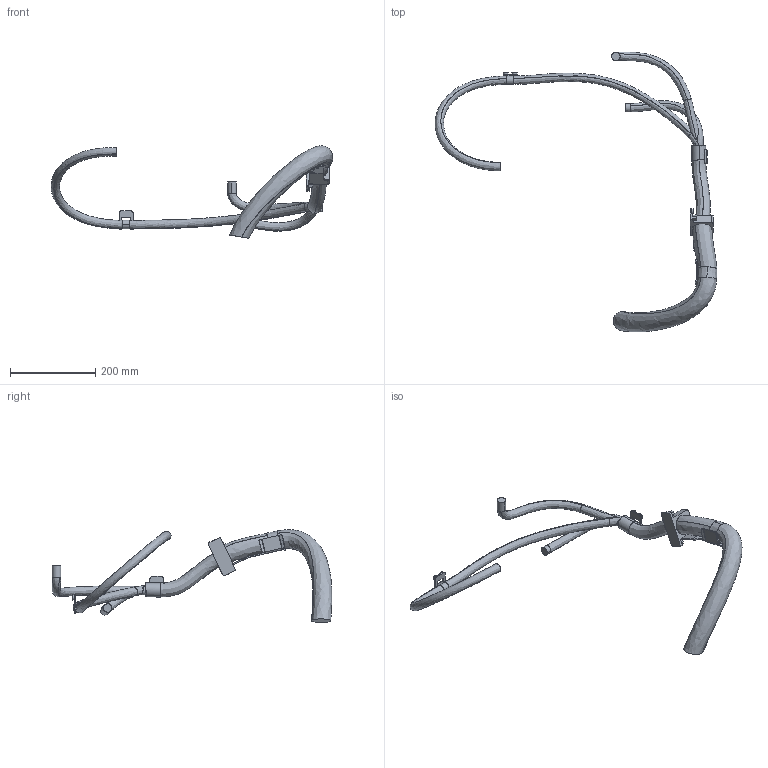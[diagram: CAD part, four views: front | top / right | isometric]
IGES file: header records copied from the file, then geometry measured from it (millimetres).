
Start section: SolidWorks IGES file using analytic representation for surfaces
Global section: file name: C:\Users\SEAMSTO1\OneDrive - ABB\PT\Macro\IGES\IRB6760_150kg-350_OC_00_IGES_J\IRB6760_All_OC_00_LINK03m_CABLE.igs; native system: SolidWorks 2024; preprocessor: SolidWorks 2024; author: SEAMSTO1; date: 250930.150720; units: millimetre
Bounding box: 660.98 x 656.85 x 217.52 mm (x, y, z)
Surface area: 207829.1 mm2 (no closed solid volume)
Topology: 0 solids, 0 shells, 223 faces, 3108 edges, 3104 vertices
Faces by surface type: bspline 142, revolution 81
